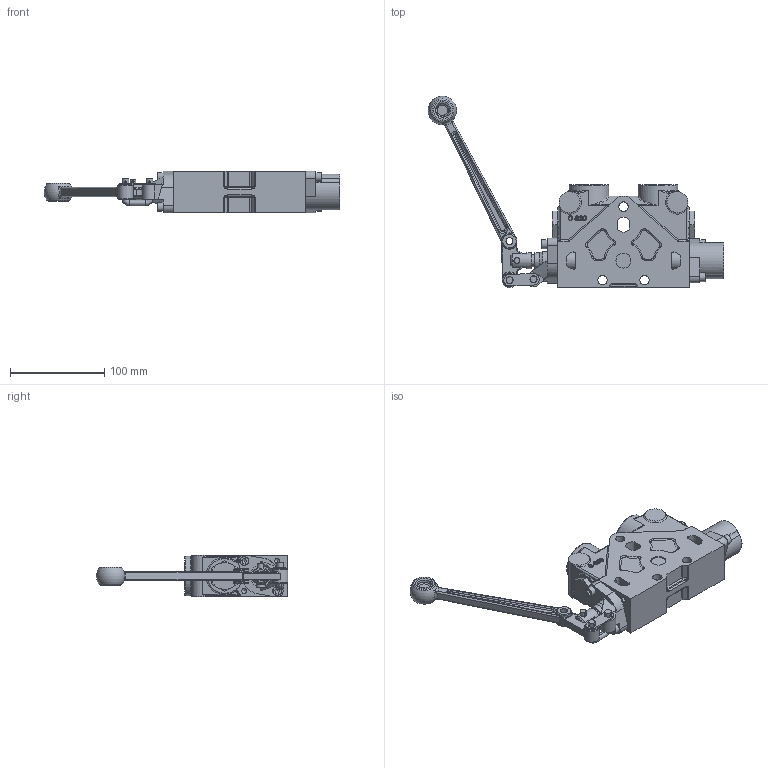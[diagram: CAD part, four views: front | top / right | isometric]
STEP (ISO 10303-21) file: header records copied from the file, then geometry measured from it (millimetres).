
FILE_DESCRIPTION((''),'2;1');
FILE_NAME('C:\Vault\Workspace\z_ShellModels\S20\20P1BA1AA_Shell.stp','2012-03-20T09:09:08',('PetersW'),(''),'Autodesk Inventor 2012','Autodesk Inventor 2012','');
FILE_SCHEMA(('AUTOMOTIVE_DESIGN { 1 0 10303 214 1 1 1 1 }'));
Length unit declared in the file: inch
Products named in the file (1): Part4
Bounding box: 313.24 x 202.57 x 44.45 mm (x, y, z)
Volume: 677088.7 mm3; surface area: 106495.6 mm2
Topology: 5 solids, 17 shells, 854 faces, 2099 edges, 1303 vertices
Faces by surface type: plane 320, cylinder 194, bspline 189, torus 74, cone 68, sphere 9
Full cylindrical faces by diameter (mm): 1.981 x2, 2.388 x1, 4.978 x8, 6.248 x1, 6.35 x4, 6.388 x2, 6.401 x2, 6.528 x1, 6.604 x2, 6.858 x2, 7.087 x2, 7.277 x1, 7.366 x2, 7.493 x2, 9.525 x5, 9.931 x3, 12.7 x1, 15.875 x4, 16.764 x2, 19.063 x2, 20.345 x2, 22.225 x1, 22.479 x2, 23.8 x2, 24.206 x1, 25.4 x3, 26.822 x3, 36.513 x1, 36.525 x1, 42.164 x2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
Entity records: 29413 total; most frequent: CARTESIAN_POINT 10319, ORIENTED_EDGE 3766, DIRECTION 3452, EDGE_CURVE 1883, AXIS2_PLACEMENT_3D 1346, VERTEX_POINT 1239, EDGE_LOOP 1070, STYLED_ITEM 859
